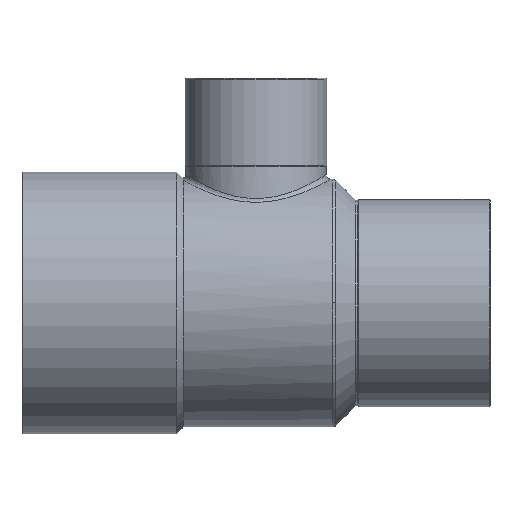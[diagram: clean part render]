
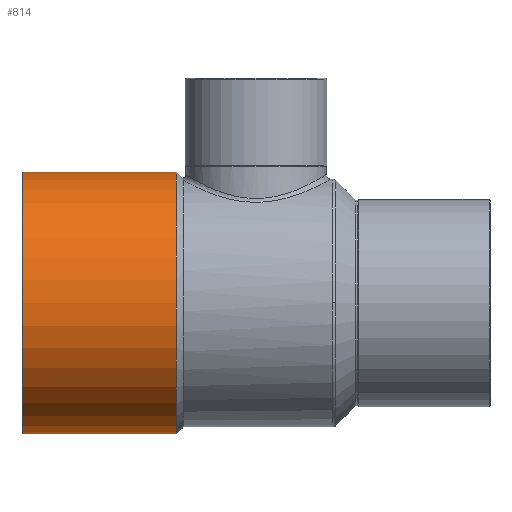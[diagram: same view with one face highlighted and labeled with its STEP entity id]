
A CAD part, top view. The second image highlights one B-rep face of the part: STEP entity #814.
In plain terms, the highlighted cylindrical face has radius 28.525 mm (diameter 57.05 mm), a partial arc.
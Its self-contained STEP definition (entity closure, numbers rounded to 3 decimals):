
#271=CARTESIAN_POINT('',(-17.379,28.525,0.0));
#272=VERTEX_POINT('',#271);
#281=CARTESIAN_POINT('',(-17.379,-28.525,0.));
#282=VERTEX_POINT('',#281);
#283=CARTESIAN_POINT('',(-17.379,0.0,0.0));
#284=DIRECTION('',(1.0,0.0,0.0));
#285=DIRECTION('',(0.0,1.0,0.0));
#286=AXIS2_PLACEMENT_3D('',#283,#284,#285);
#287=CIRCLE('',#286,28.525);
#288=EDGE_CURVE('',#272,#282,#287,.T.);
#783=CARTESIAN_POINT('',(-34.189,0.0,0.0));
#784=DIRECTION('',(1.0,0.0,0.0));
#785=DIRECTION('',(0.0,1.0,0.0));
#786=AXIS2_PLACEMENT_3D('',#783,#784,#785);
#787=CYLINDRICAL_SURFACE('',#786,28.525);
#788=CARTESIAN_POINT('',(-50.8,28.525,0.));
#789=VERTEX_POINT('',#788);
#790=CARTESIAN_POINT('',(-50.8,28.525,0.));
#791=DIRECTION('',(1.0,0.0,0.0));
#792=VECTOR('',#791,33.421);
#793=LINE('',#790,#792);
#794=EDGE_CURVE('',#789,#272,#793,.T.);
#795=ORIENTED_EDGE('',*,*,#794,.F.);
#796=CARTESIAN_POINT('',(-50.8,-28.525,0.));
#797=VERTEX_POINT('',#796);
#798=CARTESIAN_POINT('',(-50.8,0.0,0.0));
#799=DIRECTION('',(-1.0,0.0,0.0));
#800=DIRECTION('',(0.0,-1.0,0.0));
#801=AXIS2_PLACEMENT_3D('',#798,#799,#800);
#802=CIRCLE('',#801,28.525);
#803=EDGE_CURVE('',#797,#789,#802,.T.);
#804=ORIENTED_EDGE('',*,*,#803,.F.);
#805=CARTESIAN_POINT('',(-17.379,-28.525,0.));
#806=DIRECTION('',(-1.0,0.0,0.0));
#807=VECTOR('',#806,33.421);
#808=LINE('',#805,#807);
#809=EDGE_CURVE('',#282,#797,#808,.T.);
#810=ORIENTED_EDGE('',*,*,#809,.F.);
#811=ORIENTED_EDGE('',*,*,#288,.F.);
#812=EDGE_LOOP('',(#795,#804,#810,#811));
#813=FACE_OUTER_BOUND('',#812,.T.);
#814=ADVANCED_FACE('',(#813),#787,.T.);
